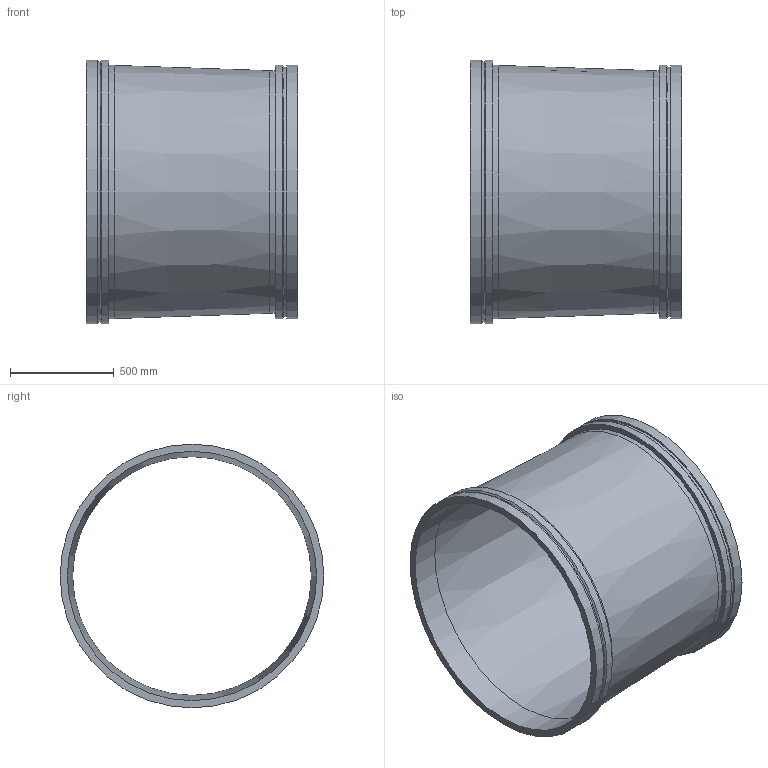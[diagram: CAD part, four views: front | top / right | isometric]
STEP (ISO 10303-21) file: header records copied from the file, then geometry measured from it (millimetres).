
FILE_DESCRIPTION(/* description */ ('VIC REDUCER CONCENTRIC No W50 VR','CAx-IF Rec.Pracs.---Representation and Presentation of Product Manufacturing Information (PMI)---4.0---2014-10-13'),/* implementation_level */ '2;1');
FILE_NAME(/* name */ 'C:\Users\kkamble\AppData\Roaming\Autodesk\ApplicationPlugins\Back Up\Victaulic_Vic-Ring_Reducer Concentric_No W50 VR (AGR)\Victaulic_Vic-Ring_Reducer Concentric_No W50 VR (AGR)_48.0x46.0 (1200x1150).stp',/* time_stamp */ '2020-09-10T11:48:06+05:00',/* author */ ('cps_temp'),/* organization */ ('Victaulic'),/* preprocessor_version */ 'ST-DEVELOPER v17.2',/* originating_system */ 'Autodesk Inventor 2019',/* authorisation */ '');
FILE_SCHEMA (('AP242_MANAGED_MODEL_BASED_3D_ENGINEERING_MIM_LF { 1 0 10303 442 1 1 4 }'));
Length unit declared in the file: inch
Products named in the file (1): W50 VR-48.0x46.0
Bounding box: 1016 x 1270 x 1270 mm (x, y, z)
Volume: 55923063.3 mm3; surface area: 8146440.9 mm2
Topology: 1 solids, 1 shells, 20 faces, 54 edges, 40 vertices
Faces by surface type: cylinder 10, plane 6, cone 4
Full cylindrical faces by diameter (mm): 1149.35 x1, 1168.4 x1, 1200.15 x1, 1203.325 x1, 1219.2 x3, 1254.125 x1, 1270 x2
Entity records: 830 total; most frequent: DIRECTION 162, CARTESIAN_POINT 132, ORIENTED_EDGE 108, AXIS2_PLACEMENT_3D 74, EDGE_CURVE 54, CIRCLE 40, VERTEX_POINT 40, EDGE_LOOP 26
